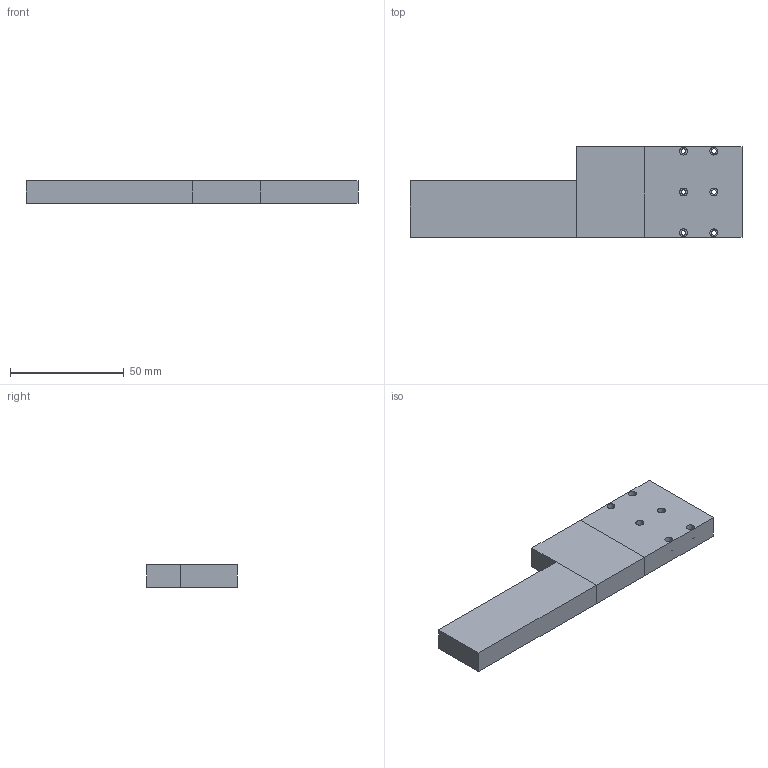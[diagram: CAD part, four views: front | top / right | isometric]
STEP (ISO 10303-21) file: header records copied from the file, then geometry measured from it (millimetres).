
FILE_DESCRIPTION(/* description */ ('','CAx-IF Rec.Pracs.---Representation and Presentation of Product Manufacturing Information (PMI)---3.8---2014-02-18'),/* implementation_level */ '2;1');
FILE_NAME(/* name */ 'D:\Inventor\1p2p\for vendors\DM mount\Optima order\DM_smaract_bottom_LONG.stp',/* time_stamp */ '2018-05-07T14:18:18-07:00',/* author */ ('Radek'),/* organization */ (''),/* preprocessor_version */ 'ST-DEVELOPER v16.5',/* originating_system */ 'Autodesk Inventor 2017',/* authorisation */ '');
FILE_SCHEMA (('AP242_MANAGED_MODEL_BASED_3D_ENGINEERING_MIM_LF { 1 0 10303 442 1 1 4 }'));
Length unit declared in the file: millimetre
Products named in the file (4): DM_smaract_bottom_LONG; DM_SMARATCT_BOTTOM1; DM_SMARATCT_BOTTOM2; DM_SMARACT_BOTTOM_JOINT
Assembly tree (3 placements, depth 2):
  DM_smaract_bottom_LONG
    DM_SMARATCT_BOTTOM1
    DM_SMARATCT_BOTTOM2
    DM_SMARACT_BOTTOM_JOINT
Bounding box: 146.01 x 40 x 10 mm (x, y, z)
Volume: 45752.9 mm3; surface area: 16127 mm2
Topology: 3 solids, 3 shells, 46 faces, 87 edges, 58 vertices
Faces by surface type: plane 29, cylinder 17
Full cylindrical faces by diameter (mm): 2 x6, 2.5 x2, 3.5 x6, 5 x3
Entity records: 1214 total; most frequent: DIRECTION 210, CARTESIAN_POINT 181, ORIENTED_EDGE 140, AXIS2_PLACEMENT_3D 87, EDGE_LOOP 86, EDGE_CURVE 70, VERTEX_POINT 58, FACE_OUTER_BOUND 46
